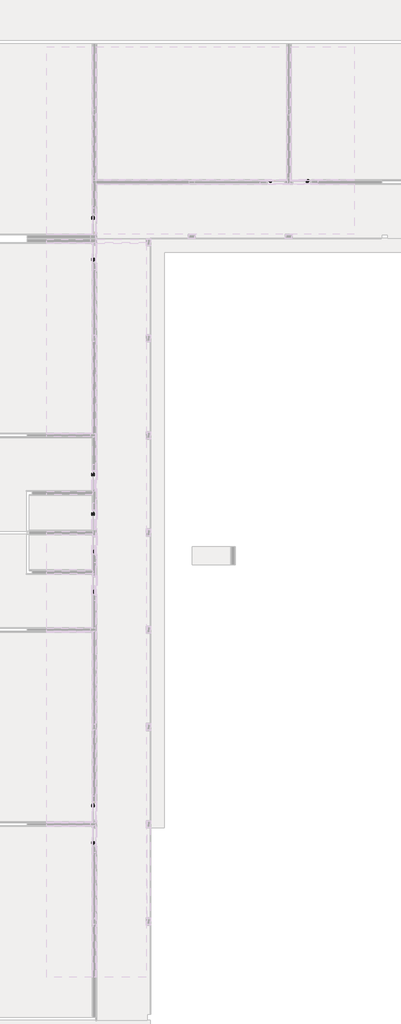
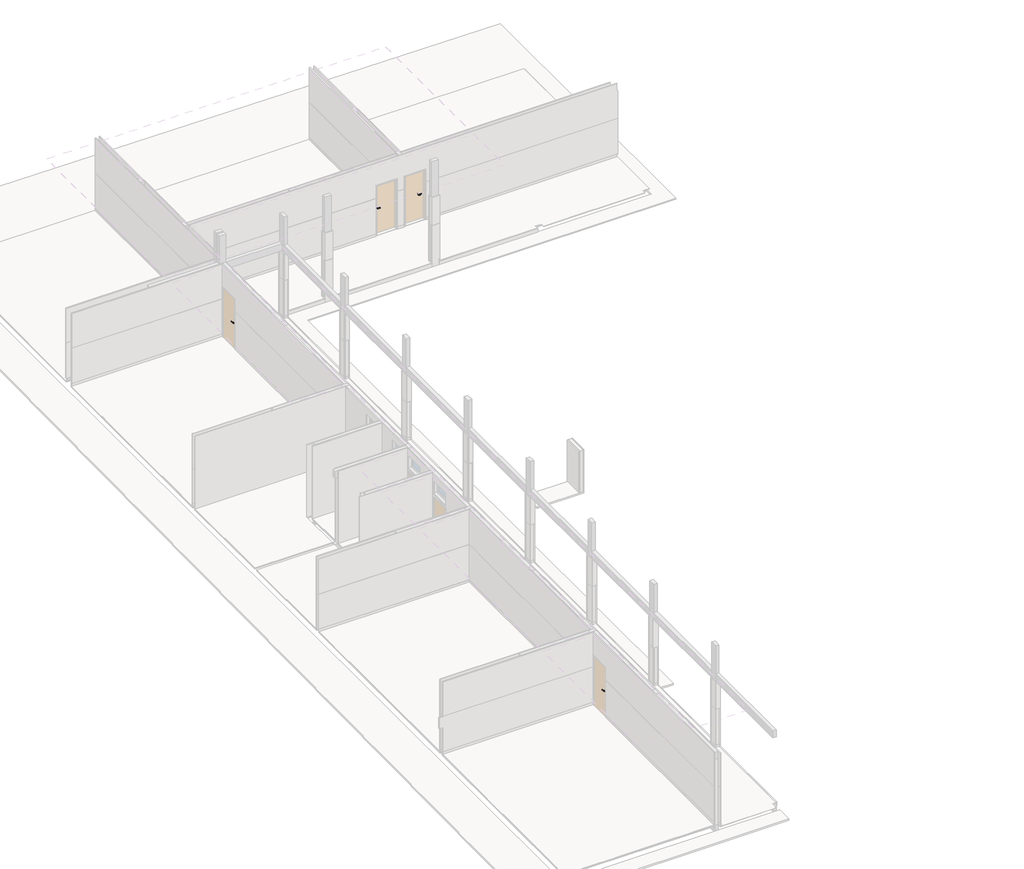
# One storey, part 11 of 11: 10 proxies.
"""IFC4 building model written with IfcOpenShell, lengths in millimetres."""

from ifc_helpers import new_model, si_unit, origin, place, context, project, spatial, transform, mapped, element, save
from components import generic_models_5bc66575, generic_models_21ba5421

model = new_model("IFC4")

# Units and contexts
model_context = context("Model", 3, world=origin())
ifc_project = project(units=[si_unit("LENGTHUNIT", "METRE", prefix="MILLI")], contexts=[model_context])

# Site, building, storey
site = spatial("IfcSite", under=ifc_project)
building = spatial("IfcBuilding", under=site)
storey = spatial("IfcBuildingStorey", under=building, Name="NÍVEL 1", Elevation=43.4413576)

# Proxies
placement = place(None, origin())
generic_models_shape = generic_models_5bc66575(model_context)
element("IfcBuildingElementProxy", 1, Name="MAÇANETA CUSTOMIZADA : FECHADURA EXTERNA", ObjectType="MAÇANETA CUSTOMIZADA : FECHADURA EXTERNA", at=placement, inside=storey, context=model_context, shape_type="MappedRepresentation", body=[
    mapped(generic_models_shape, transform((9139.8574069, -17057.9280358, 1113.4413576), x_axis=(0.0, -1.0, 0.0), y_axis=(1.0, 0.0, 0.0), z_axis=(0.0, 0.0, 1.0))),
])
element("IfcBuildingElementProxy", 2, Name="MAÇANETA CUSTOMIZADA : FECHADURA EXTERNA", ObjectType="MAÇANETA CUSTOMIZADA : FECHADURA EXTERNA", at=placement, inside=storey, context=model_context, shape_type="MappedRepresentation", body=[
    mapped(generic_models_shape, transform((9139.8574069, 8942.0719642, 1113.4413576), x_axis=(0.0, -1.0, 0.0), y_axis=(1.0, 0.0, 0.0), z_axis=(0.0, 0.0, 1.0))),
])
element("IfcBuildingElementProxy", 3, Name="MAÇANETA CUSTOMIZADA : FECHADURA EXTERNA", ObjectType="MAÇANETA CUSTOMIZADA : FECHADURA EXTERNA", at=placement, inside=storey, context=model_context, shape_type="MappedRepresentation", body=[
    mapped(generic_models_shape, transform((18672.3574069, 10534.5719642, 1113.4413576), x_axis=(-1.0, 0.0, 0.0), y_axis=(0.0, -1.0, 0.0), z_axis=(0.0, 0.0, 1.0))),
])
element("IfcBuildingElementProxy", 4, Name="MAÇANETA CUSTOMIZADA : FECHADURA EXTERNA", ObjectType="MAÇANETA CUSTOMIZADA : FECHADURA EXTERNA", at=placement, inside=storey, context=model_context, shape_type="MappedRepresentation", body=[
    mapped(generic_models_shape, transform((9139.8574069, -4157.9280358, 1113.4413576), x_axis=(0.0, -1.0, 0.0), y_axis=(1.0, 0.0, 0.0), z_axis=(0.0, 0.0, 1.0))),
])
element("IfcBuildingElementProxy", 5, Name="MAÇANETA CUSTOMIZADA : FECHADURA EXTERNA", ObjectType="MAÇANETA CUSTOMIZADA : FECHADURA EXTERNA", at=placement, inside=storey, context=model_context, shape_type="MappedRepresentation", body=[
    mapped(generic_models_shape, transform((9139.8574069, -2407.9280358, 1113.4413576), x_axis=(0.0, -1.0, 0.0), y_axis=(1.0, 0.0, 0.0), z_axis=(0.0, 0.0, 1.0))),
])
generic_models_2_shape = generic_models_21ba5421(model_context)
element("IfcBuildingElementProxy", 6, Name="MAÇANETA CUSTOMIZADA : FECHADURA EXTERNA", ObjectType="MAÇANETA CUSTOMIZADA : FECHADURA EXTERNA", at=placement, inside=storey, context=model_context, shape_type="MappedRepresentation", body=[
    mapped(generic_models_2_shape, transform((9139.8574069, -18797.9280358, 1113.4413576), x_axis=(0.0, 1.0, 0.0), y_axis=(-1.0, 0.0, 0.0), z_axis=(0.0, 0.0, 1.0))),
])
element("IfcBuildingElementProxy", 7, Name="MAÇANETA CUSTOMIZADA : FECHADURA EXTERNA", ObjectType="MAÇANETA CUSTOMIZADA : FECHADURA EXTERNA", at=placement, inside=storey, context=model_context, shape_type="MappedRepresentation", body=[
    mapped(generic_models_2_shape, transform((9139.8574069, 7002.0719642, 1113.4413576), x_axis=(0.0, 1.0, 0.0), y_axis=(-1.0, 0.0, 0.0), z_axis=(0.0, 0.0, 1.0))),
])
element("IfcBuildingElementProxy", 8, Name="MAÇANETA CUSTOMIZADA : FECHADURA EXTERNA", ObjectType="MAÇANETA CUSTOMIZADA : FECHADURA EXTERNA", at=placement, inside=storey, context=model_context, shape_type="MappedRepresentation", body=[
    mapped(generic_models_2_shape, transform((16932.3574069, 10534.5719642, 1113.4413576), x_axis=(1.0, 0.0, 0.0), y_axis=(0.0, 1.0, 0.0), z_axis=(0.0, 0.0, 1.0))),
])
element("IfcBuildingElementProxy", 9, Name="MAÇANETA CUSTOMIZADA : FECHADURA EXTERNA", ObjectType="MAÇANETA CUSTOMIZADA : FECHADURA EXTERNA", at=placement, inside=storey, context=model_context, shape_type="MappedRepresentation", body=[
    mapped(generic_models_2_shape, transform((9139.8574069, -7677.9280358, 1113.4413576), x_axis=(0.0, 1.0, 0.0), y_axis=(-1.0, 0.0, 0.0), z_axis=(0.0, 0.0, 1.0))),
])
element("IfcBuildingElementProxy", 10, Name="MAÇANETA CUSTOMIZADA : FECHADURA EXTERNA", ObjectType="MAÇANETA CUSTOMIZADA : FECHADURA EXTERNA", at=placement, inside=storey, context=model_context, shape_type="MappedRepresentation", body=[
    mapped(generic_models_2_shape, transform((9139.8574069, -5897.9280358, 1113.4413576), x_axis=(0.0, 1.0, 0.0), y_axis=(-1.0, 0.0, 0.0), z_axis=(0.0, 0.0, 1.0))),
])

save(model, "model.ifc")
